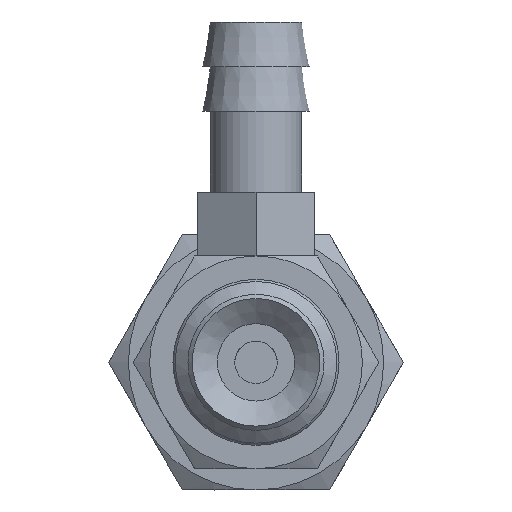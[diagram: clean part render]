
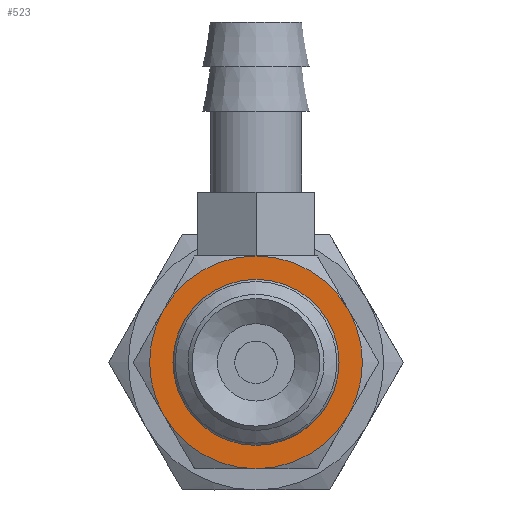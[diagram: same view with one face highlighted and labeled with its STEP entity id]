
A CAD part, front view. The second image highlights one B-rep face of the part: STEP entity #523.
In plain terms, the highlighted planar face has unit normal (0, -1, 0).
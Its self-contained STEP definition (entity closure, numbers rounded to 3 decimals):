
#523=ADVANCED_FACE('',(#749,#750),#751,.T.);
#749=FACE_BOUND('',#1090,.T.);
#750=FACE_OUTER_BOUND('',#1091,.T.);
#751=PLANE('',#1092);
#1090=EDGE_LOOP('',(#1738));
#1091=EDGE_LOOP('',(#1739,#1740,#1741,#1742,#1743,#1744));
#1092=AXIS2_PLACEMENT_3D('',#1745,#1746,#1747);
#1738=ORIENTED_EDGE('',*,*,#2311,.F.);
#1739=ORIENTED_EDGE('',*,*,#2313,.T.);
#1740=ORIENTED_EDGE('',*,*,#2271,.T.);
#1741=ORIENTED_EDGE('',*,*,#2255,.T.);
#1742=ORIENTED_EDGE('',*,*,#2289,.T.);
#1743=ORIENTED_EDGE('',*,*,#2283,.T.);
#1744=ORIENTED_EDGE('',*,*,#2277,.T.);
#1745=CARTESIAN_POINT('',(2.0,0.,0.0));
#1746=DIRECTION('',(0.0,-1.0,0.0));
#1747=DIRECTION('',(0.0,0.0,-1.0));
#2255=EDGE_CURVE('',#2555,#2557,#2559,.T.);
#2271=EDGE_CURVE('',#2575,#2555,#2587,.T.);
#2277=EDGE_CURVE('',#2597,#2588,#2598,.T.);
#2283=EDGE_CURVE('',#2607,#2597,#2608,.T.);
#2289=EDGE_CURVE('',#2557,#2607,#2615,.T.);
#2311=EDGE_CURVE('',#2656,#2656,#2657,.T.);
#2313=EDGE_CURVE('',#2588,#2575,#2660,.T.);
#2555=VERTEX_POINT('',#3249);
#2557=VERTEX_POINT('',#3253);
#2559=CIRCLE('',#3257,5.0);
#2575=VERTEX_POINT('',#3283);
#2587=CIRCLE('',#3307,5.0);
#2588=VERTEX_POINT('',#3308);
#2597=VERTEX_POINT('',#3326);
#2598=CIRCLE('',#3327,5.0);
#2607=VERTEX_POINT('',#3345);
#2608=CIRCLE('',#3346,5.0);
#2615=CIRCLE('',#3361,5.0);
#2656=VERTEX_POINT('',#3417);
#2657=CIRCLE('',#3418,2.0);
#2660=CIRCLE('',#3421,5.0);
#3249=CARTESIAN_POINT('',(4.33,0.0,2.5));
#3253=CARTESIAN_POINT('',(0.0,0.0,5.0));
#3257=AXIS2_PLACEMENT_3D('',#3785,#3786,#3787);
#3283=CARTESIAN_POINT('',(4.33,0.0,-2.5));
#3307=AXIS2_PLACEMENT_3D('',#3798,#3799,#3800);
#3308=CARTESIAN_POINT('',(0.0,0.0,-5.0));
#3326=CARTESIAN_POINT('',(-4.33,0.0,-2.5));
#3327=AXIS2_PLACEMENT_3D('',#3802,#3803,#3804);
#3345=CARTESIAN_POINT('',(-4.33,0.,2.5));
#3346=AXIS2_PLACEMENT_3D('',#3806,#3807,#3808);
#3361=AXIS2_PLACEMENT_3D('',#3812,#3813,#3814);
#3417=CARTESIAN_POINT('',(0.0,0.,-2.0));
#3418=AXIS2_PLACEMENT_3D('',#3848,#3849,#3850);
#3421=AXIS2_PLACEMENT_3D('',#3854,#3855,#3856);
#3785=CARTESIAN_POINT('',(0.0,0.,0.0));
#3786=DIRECTION('',(0.0,-1.0,0.0));
#3787=DIRECTION('',(0.0,0.0,-1.0));
#3798=CARTESIAN_POINT('',(0.0,0.,0.0));
#3799=DIRECTION('',(0.0,-1.0,0.0));
#3800=DIRECTION('',(0.0,0.0,-1.0));
#3802=CARTESIAN_POINT('',(0.0,0.,0.0));
#3803=DIRECTION('',(0.0,-1.0,0.0));
#3804=DIRECTION('',(0.0,0.0,-1.0));
#3806=CARTESIAN_POINT('',(0.0,0.,0.0));
#3807=DIRECTION('',(0.0,-1.0,0.0));
#3808=DIRECTION('',(0.0,0.0,-1.0));
#3812=CARTESIAN_POINT('',(0.0,0.,0.0));
#3813=DIRECTION('',(0.0,-1.0,0.0));
#3814=DIRECTION('',(0.0,0.0,-1.0));
#3848=CARTESIAN_POINT('',(0.0,0.,0.0));
#3849=DIRECTION('',(0.0,-1.0,0.0));
#3850=DIRECTION('',(0.0,0.0,-1.0));
#3854=CARTESIAN_POINT('',(0.0,0.,0.0));
#3855=DIRECTION('',(0.0,-1.0,0.0));
#3856=DIRECTION('',(0.0,0.0,-1.0));
